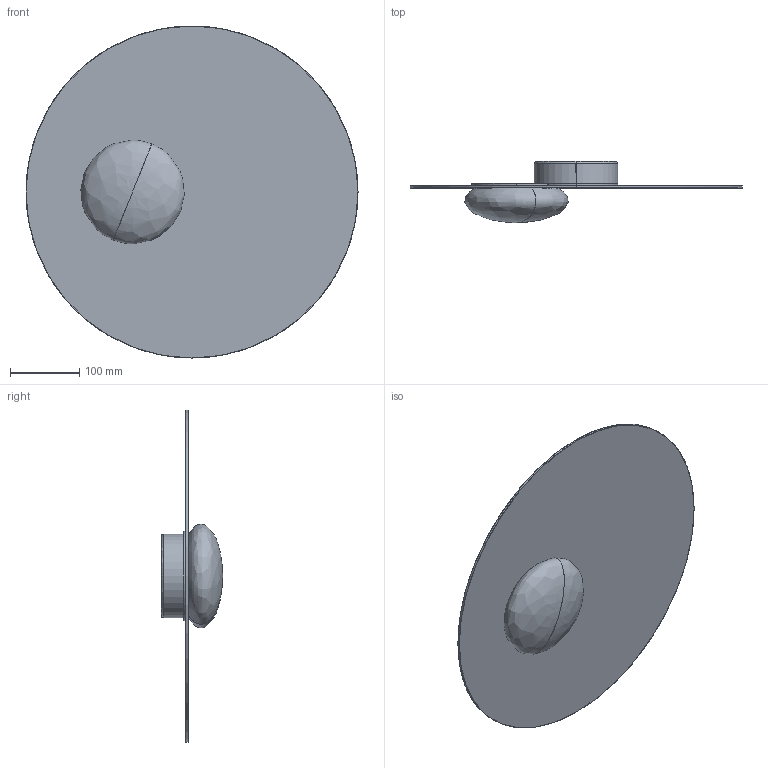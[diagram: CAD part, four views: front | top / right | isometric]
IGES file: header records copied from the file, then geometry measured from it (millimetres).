
Start section: SolidWorks IGES file using analytic representation for surfaces
Global section: file name: D:\OneDrive\Projects\AXO069 KWIC\DRAW\3D\STEP-IGES\KWIC_Ceiling_480.IGS; native system: SolidWorks 2019; preprocessor: SolidWorks 2019; author: tecnico8; date: 190725.152835; units: millimetre
Bounding box: 480 x 88.5 x 480 mm (x, y, z)
Surface area: 511926.7 mm2 (no closed solid volume)
Topology: 0 solids, 0 shells, 228 faces, 4432 edges, 4430 vertices
Faces by surface type: revolution 197, bspline 31
